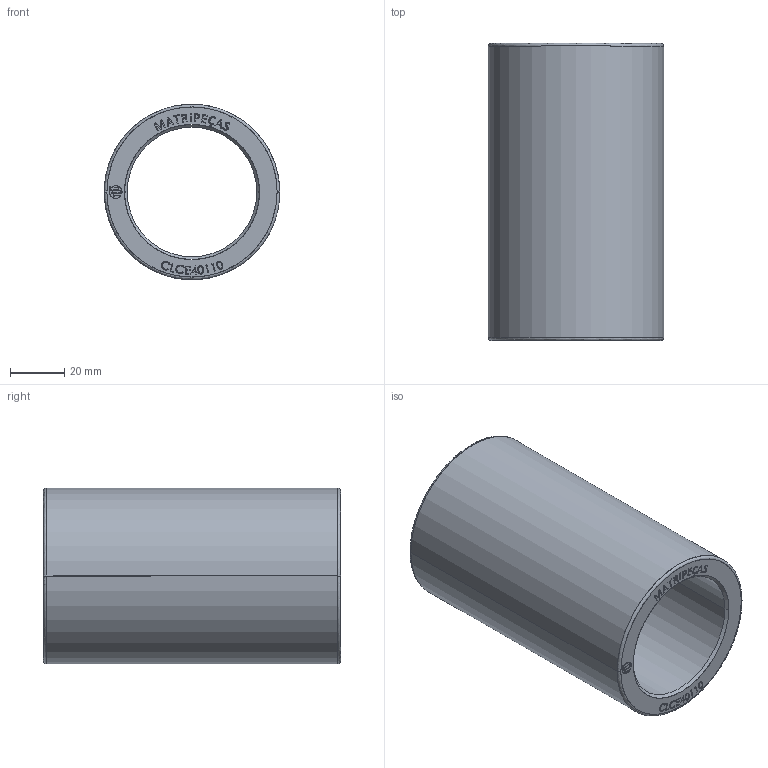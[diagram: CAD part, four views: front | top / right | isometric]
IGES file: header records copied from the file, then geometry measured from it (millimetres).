
Start section: SolidWorks IGES file using analytic representation for surfaces
Global section: file name: C:\Users\Maxiel\Desktop\pecas corrigidas\Camisa Lisa Para Colar De Esferas\CLCE40110.igs; native system: SolidWorks 2014; preprocessor: SolidWorks 2014; author: Maxiel; date: 140728.214915; units: millimetre
Bounding box: 65 x 110 x 65 mm (x, y, z)
Surface area: 41862.2 mm2 (no closed solid volume)
Topology: 0 solids, 0 shells, 304 faces, 4016 edges, 4016 vertices
Faces by surface type: bspline 285, revolution 19
